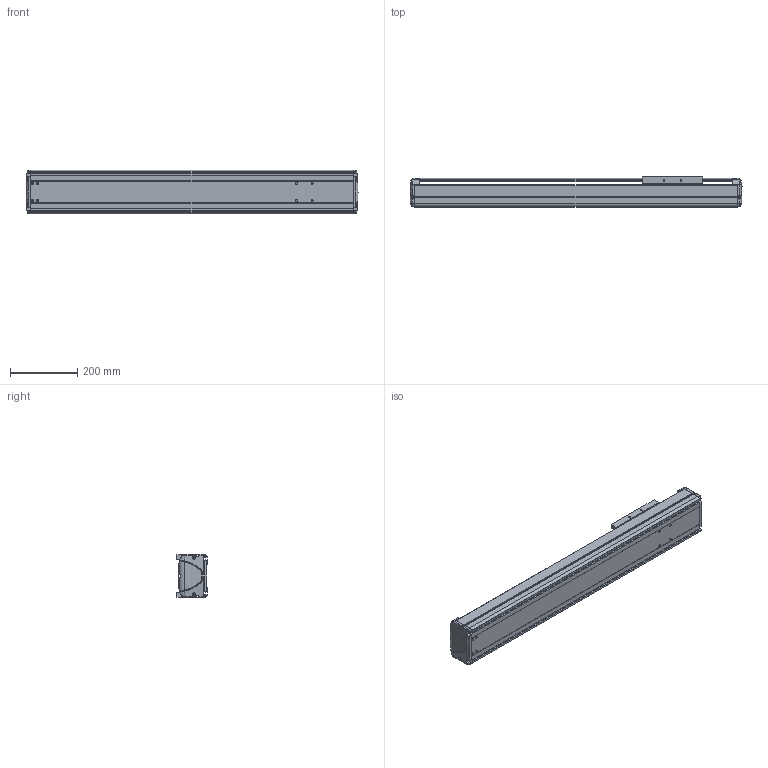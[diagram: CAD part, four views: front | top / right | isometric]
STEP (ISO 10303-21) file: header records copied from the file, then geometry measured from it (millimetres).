
FILE_DESCRIPTION((''),'2;1');
FILE_NAME('BE30E-ST-L_N-65_IGS_PRT','2017-06-17T',(' '),(''),'PRO/ENGINEER BY PARAMETRIC TECHNOLOGY CORPORATION, 2015030','PRO/ENGINEER BY PARAMETRIC TECHNOLOGY CORPORATION, 2015030','');
FILE_SCHEMA(('CONFIG_CONTROL_DESIGN'));
Length unit declared in the file: millimetre
Products named in the file (1): BE30E-ST-L_N-65_IGS_PRT
Bounding box: 990 x 89.8 x 130 mm (x, y, z)
Volume: 3101432.6 mm3; surface area: 1224135.5 mm2
Topology: 3 solids, 86 shells, 1354 faces, 3641 edges, 2385 vertices
Faces by surface type: cylinder 611, plane 590, bspline 55, torus 44, cone 30, sphere 24
Entity records: 45514 total; most frequent: CARTESIAN_POINT 11424, DIRECTION 7034, ORIENTED_EDGE 6916, EDGE_CURVE 3621, AXIS2_PLACEMENT_3D 2544, VERTEX_POINT 2385, VECTOR 1946, LINE 1946
